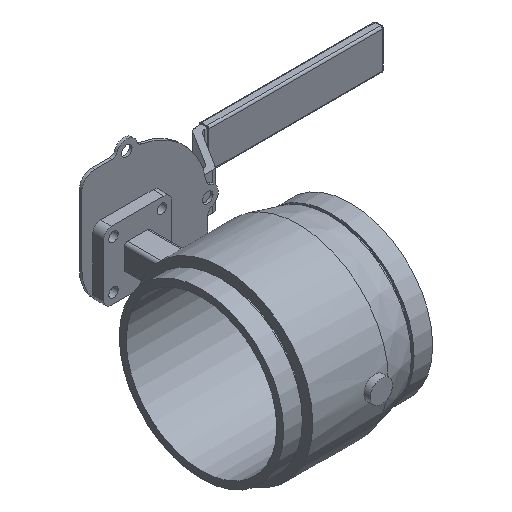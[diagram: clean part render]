
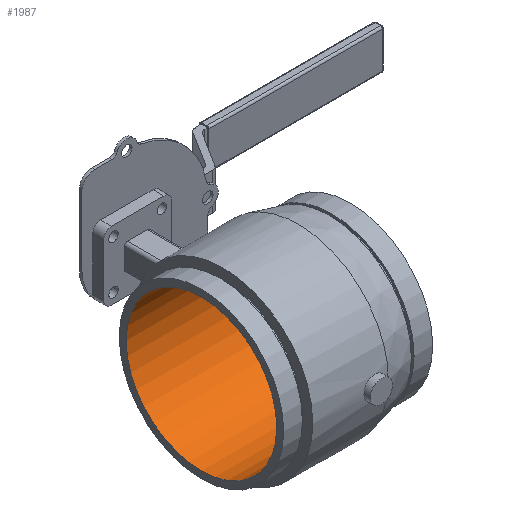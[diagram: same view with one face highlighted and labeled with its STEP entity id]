
A CAD part, isometric view. The second image highlights one B-rep face of the part: STEP entity #1987.
In plain terms, the highlighted cylindrical face has radius 76.994 mm (diameter 153.987 mm), a full revolution.
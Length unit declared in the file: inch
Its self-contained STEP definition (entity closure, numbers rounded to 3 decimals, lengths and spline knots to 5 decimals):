
#152=FACE_OUTER_BOUND('',#270,.T.);
#270=EDGE_LOOP('',(#1405,#1406,#1407,#1408,#1409,#1410));
#411=LINE('',#3249,#562);
#562=VECTOR('',#2573,3.03125);
#706=CIRCLE('',#2236,3.03125);
#707=CIRCLE('',#2237,3.03125);
#708=CIRCLE('',#2238,3.03125);
#709=CIRCLE('',#2239,3.03125);
#848=VERTEX_POINT('',#3245);
#849=VERTEX_POINT('',#3246);
#850=VERTEX_POINT('',#3248);
#851=VERTEX_POINT('',#3250);
#1056=EDGE_CURVE('',#848,#849,#706,.T.);
#1057=EDGE_CURVE('',#849,#850,#411,.T.);
#1058=EDGE_CURVE('',#851,#850,#707,.T.);
#1059=EDGE_CURVE('',#850,#851,#708,.T.);
#1060=EDGE_CURVE('',#849,#848,#709,.T.);
#1405=ORIENTED_EDGE('',*,*,#1056,.T.);
#1406=ORIENTED_EDGE('',*,*,#1057,.T.);
#1407=ORIENTED_EDGE('',*,*,#1058,.F.);
#1408=ORIENTED_EDGE('',*,*,#1059,.F.);
#1409=ORIENTED_EDGE('',*,*,#1057,.F.);
#1410=ORIENTED_EDGE('',*,*,#1060,.T.);
#1811=CYLINDRICAL_SURFACE('',#2235,3.03125);
#1987=ADVANCED_FACE('',(#152),#1811,.F.);
#2235=AXIS2_PLACEMENT_3D('',#3244,#2569,#2570);
#2236=AXIS2_PLACEMENT_3D('',#3247,#2571,#2572);
#2237=AXIS2_PLACEMENT_3D('',#3251,#2574,#2575);
#2238=AXIS2_PLACEMENT_3D('',#3252,#2576,#2577);
#2239=AXIS2_PLACEMENT_3D('',#3253,#2578,#2579);
#2569=DIRECTION('center_axis',(1.,0.,0.));
#2570=DIRECTION('ref_axis',(0.,1.,0.));
#2571=DIRECTION('center_axis',(1.,0.,0.));
#2572=DIRECTION('ref_axis',(0.,0.,-1.));
#2573=DIRECTION('',(-1.,0.,0.));
#2574=DIRECTION('center_axis',(1.,0.,0.));
#2575=DIRECTION('ref_axis',(0.,0.,-1.));
#2576=DIRECTION('center_axis',(1.,0.,0.));
#2577=DIRECTION('ref_axis',(0.,0.,-1.));
#2578=DIRECTION('center_axis',(1.,0.,0.));
#2579=DIRECTION('ref_axis',(0.,0.,-1.));
#3244=CARTESIAN_POINT('Origin',(-0.37,0.,0.));
#3245=CARTESIAN_POINT('',(2.63,0.,-3.03125));
#3246=CARTESIAN_POINT('',(2.63,-3.03125,0.));
#3247=CARTESIAN_POINT('Origin',(2.63,0.,0.));
#3248=CARTESIAN_POINT('',(-3.37,-3.03125,0.));
#3249=CARTESIAN_POINT('',(-0.37,-3.03125,0.));
#3250=CARTESIAN_POINT('',(-3.37,3.03125,0.));
#3251=CARTESIAN_POINT('Origin',(-3.37,0.,0.));
#3252=CARTESIAN_POINT('Origin',(-3.37,0.,0.));
#3253=CARTESIAN_POINT('Origin',(2.63,0.,0.));
